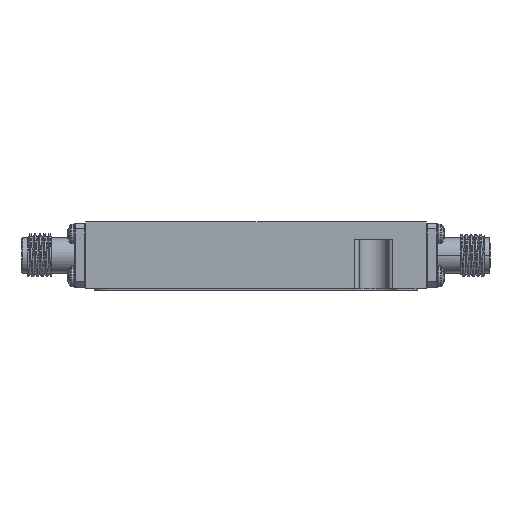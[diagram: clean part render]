
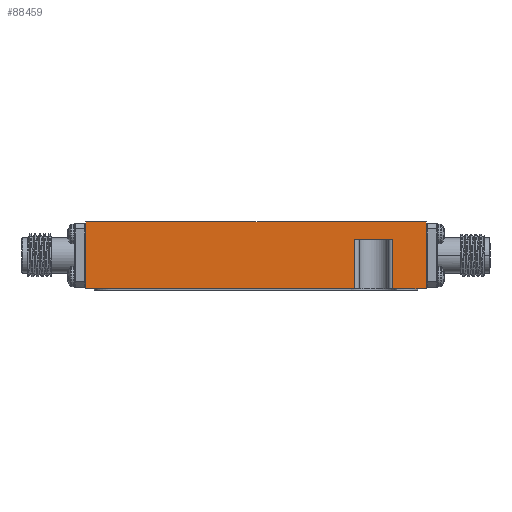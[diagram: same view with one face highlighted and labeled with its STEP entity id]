
A CAD part, left-side view. The second image highlights one B-rep face of the part: STEP entity #88459.
In plain terms, the highlighted planar face has unit normal (-1, 0, 0).
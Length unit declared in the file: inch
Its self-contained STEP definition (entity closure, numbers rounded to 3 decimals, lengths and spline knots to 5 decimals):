
#2925 = CARTESIAN_POINT ( 'NONE',  ( 38.37263, 39.30534, 41.67505 ) ) ;
#2978 = CARTESIAN_POINT ( 'NONE',  ( 38.37263, 39.27197, 41.67505 ) ) ;
#4437 = EDGE_CURVE ( 'NONE', #126952, #69923, #78172, .T. ) ;
#7177 = VECTOR ( 'NONE', #72340, 39.37008 ) ;
#7362 = ORIENTED_EDGE ( 'NONE', *, *, #38095, .T. ) ;
#9670 = DIRECTION ( 'NONE',  ( 0., 0., 1. ) ) ;
#12877 = ORIENTED_EDGE ( 'NONE', *, *, #19537, .F. ) ;
#13755 = CARTESIAN_POINT ( 'NONE',  ( 38.37263, 40.84247, 41.38505 ) ) ;
#15340 = ORIENTED_EDGE ( 'NONE', *, *, #104559, .F. ) ;
#16325 = LINE ( 'NONE', #88374, #72523 ) ;
#17357 = CARTESIAN_POINT ( 'NONE',  ( 38.37263, 38.85447, 41.38505 ) ) ;
#18296 = LINE ( 'NONE', #52476, #63708 ) ;
#19537 = EDGE_CURVE ( 'NONE', #68902, #75456, #57345, .T. ) ;
#22936 = VECTOR ( 'NONE', #46515, 39.37008 ) ;
#23040 = CARTESIAN_POINT ( 'NONE',  ( 38.37263, 39.05197, 41.38505 ) ) ;
#27086 = EDGE_CURVE ( 'NONE', #69923, #37974, #126207, .T. ) ;
#35290 = CARTESIAN_POINT ( 'NONE',  ( 38.37263, 38.85447, 41.77505 ) ) ;
#37974 = VERTEX_POINT ( 'NONE', #109001 ) ;
#38095 = EDGE_CURVE ( 'NONE', #90848, #130361, #38211, .T. ) ;
#38211 = LINE ( 'NONE', #123670, #130911 ) ;
#42064 = VECTOR ( 'NONE', #99420, 39.37008 ) ;
#43613 = DIRECTION ( 'NONE',  ( 1., 0., 0. ) ) ;
#46515 = DIRECTION ( 'NONE',  ( 0., 1., 0. ) ) ;
#48116 = CARTESIAN_POINT ( 'NONE',  ( 38.37263, 39.27197, 41.38505 ) ) ;
#49295 = DIRECTION ( 'NONE',  ( 0., 0., -1. ) ) ;
#49895 = PLANE ( 'NONE',  #68636 ) ;
#52476 = CARTESIAN_POINT ( 'NONE',  ( 38.37263, 39.27197, 41.38505 ) ) ;
#56637 = LINE ( 'NONE', #2925, #42064 ) ;
#57345 = LINE ( 'NONE', #89564, #106044 ) ;
#57693 = CARTESIAN_POINT ( 'NONE',  ( 38.37263, 38.85447, 41.77505 ) ) ;
#60635 = CARTESIAN_POINT ( 'NONE',  ( 38.37263, 39.05197, 41.67505 ) ) ;
#63708 = VECTOR ( 'NONE', #136647, 39.37008 ) ;
#68636 = AXIS2_PLACEMENT_3D ( 'NONE', #129083, #43613, #75766 ) ;
#68902 = VERTEX_POINT ( 'NONE', #48116 ) ;
#69923 = VERTEX_POINT ( 'NONE', #35290 ) ;
#71632 = CARTESIAN_POINT ( 'NONE',  ( 38.37263, 40.84247, 41.38505 ) ) ;
#72340 = DIRECTION ( 'NONE',  ( 0., 0., 1. ) ) ;
#72523 = VECTOR ( 'NONE', #110856, 39.37008 ) ;
#74941 = EDGE_CURVE ( 'NONE', #90848, #80189, #56637, .T. ) ;
#75456 = VERTEX_POINT ( 'NONE', #13755 ) ;
#75766 = DIRECTION ( 'NONE',  ( 0., -1., 0. ) ) ;
#76555 = ORIENTED_EDGE ( 'NONE', *, *, #4437, .T. ) ;
#78172 = LINE ( 'NONE', #17357, #105462 ) ;
#79005 = DIRECTION ( 'NONE',  ( 0., 1., 0. ) ) ;
#80189 = VERTEX_POINT ( 'NONE', #2978 ) ;
#82957 = EDGE_CURVE ( 'NONE', #75456, #37974, #137577, .T. ) ;
#84383 = ORIENTED_EDGE ( 'NONE', *, *, #74941, .F. ) ;
#87388 = ORIENTED_EDGE ( 'NONE', *, *, #82957, .F. ) ;
#88374 = CARTESIAN_POINT ( 'NONE',  ( 38.37263, 38.85447, 41.38505 ) ) ;
#88459 = ADVANCED_FACE ( 'NONE', ( #126351 ), #49895, .F. ) ;
#89564 = CARTESIAN_POINT ( 'NONE',  ( 38.37263, 38.85447, 41.38505 ) ) ;
#90848 = VERTEX_POINT ( 'NONE', #60635 ) ;
#99420 = DIRECTION ( 'NONE',  ( 0., 1., 0. ) ) ;
#104559 = EDGE_CURVE ( 'NONE', #126952, #130361, #16325, .T. ) ;
#105462 = VECTOR ( 'NONE', #9670, 39.37008 ) ;
#106044 = VECTOR ( 'NONE', #79005, 39.37008 ) ;
#109001 = CARTESIAN_POINT ( 'NONE',  ( 38.37263, 40.84247, 41.77505 ) ) ;
#110856 = DIRECTION ( 'NONE',  ( 0., 1., 0. ) ) ;
#112788 = ORIENTED_EDGE ( 'NONE', *, *, #27086, .T. ) ;
#122323 = ORIENTED_EDGE ( 'NONE', *, *, #122902, .T. ) ;
#122902 = EDGE_CURVE ( 'NONE', #68902, #80189, #18296, .T. ) ;
#123670 = CARTESIAN_POINT ( 'NONE',  ( 38.37263, 39.05197, 41.38505 ) ) ;
#124197 = CARTESIAN_POINT ( 'NONE',  ( 38.37263, 38.85447, 41.38505 ) ) ;
#126207 = LINE ( 'NONE', #57693, #22936 ) ;
#126351 = FACE_OUTER_BOUND ( 'NONE', #129330, .T. ) ;
#126952 = VERTEX_POINT ( 'NONE', #124197 ) ;
#129083 = CARTESIAN_POINT ( 'NONE',  ( 38.37263, 38.85447, 41.38505 ) ) ;
#129330 = EDGE_LOOP ( 'NONE', ( #12877, #122323, #84383, #7362, #15340, #76555, #112788, #87388 ) ) ;
#130361 = VERTEX_POINT ( 'NONE', #23040 ) ;
#130911 = VECTOR ( 'NONE', #49295, 39.37008 ) ;
#136647 = DIRECTION ( 'NONE',  ( 0., 0., 1. ) ) ;
#137577 = LINE ( 'NONE', #71632, #7177 ) ;
